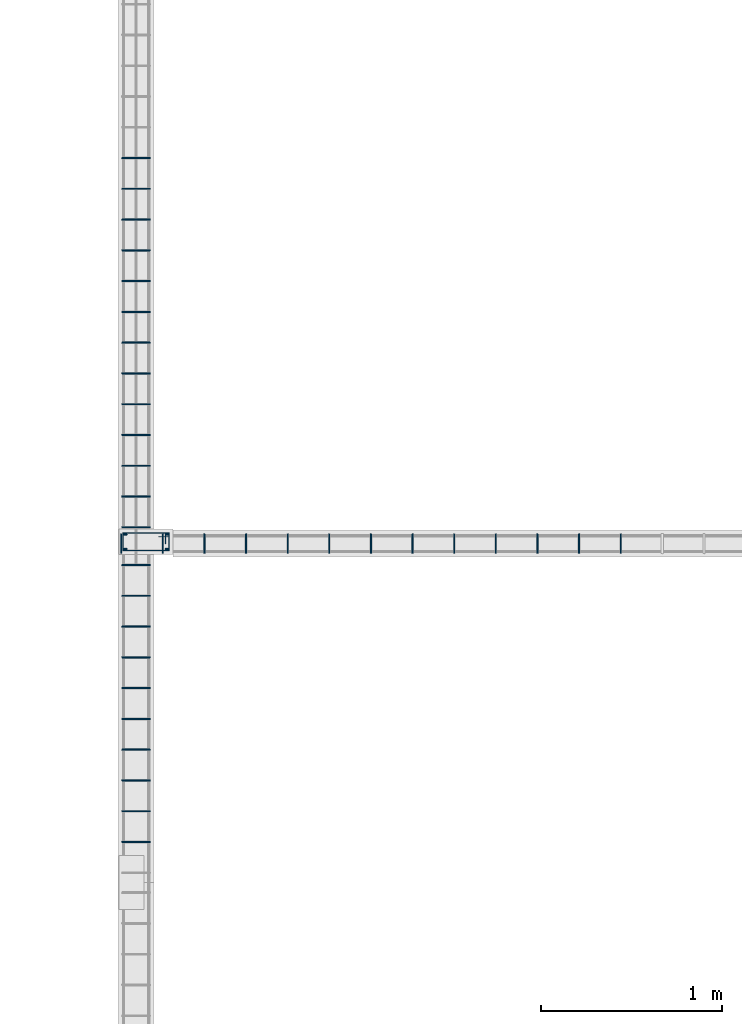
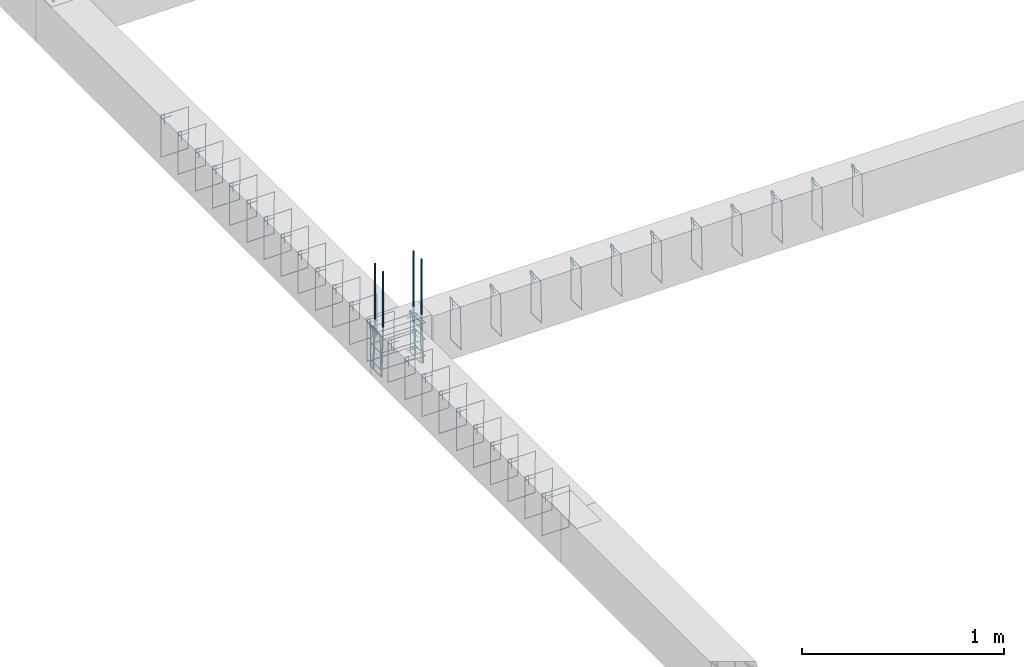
# One storey, part 82 of 150: 43 reinforcing bars.
"""IFC4 building model written with IfcOpenShell, lengths in centimetres."""

import ifcopenshell
import ifcopenshell.guid

model = None  # the IFC model being written
_history = None  # IfcOwnerHistory: only IFC2X3 demands one
_inside = {}  # id of a spatial element -> (the spatial element, [elements in it])
_under = {}  # id of a project, library or spatial element -> (it, [spatial elements below it])
_declared = {}  # id of a project -> (the project, [libraries it declares])
_typed = {}  # id of a type object -> (the type object, [elements of that type])
_made_of = {}  # id of a material, layer set ... -> (it, [elements and type objects made of it])


def new_model(schema):
    """Start an empty IFC model of exactly this schema.

    Asked for "IFC4X3", IfcOpenShell would pick the latest addendum, in which some entities
    have other attributes; the version numbers below select the first issue.
    IFC2X3 requires an IfcOwnerHistory on every rooted entity: one is made here for all.
    """
    global model, _history
    if schema == "IFC4X3":
        model = ifcopenshell.file(schema_version=(4, 3, 0, 0))
    else:
        model = ifcopenshell.file(schema=schema)
    _inside.clear()
    _under.clear()
    _declared.clear()
    _typed.clear()
    _made_of.clear()
    _history = None
    if model.schema == "IFC2X3":
        org = make("IfcOrganization", Name="unknown")
        user = make(
            "IfcPersonAndOrganization",
            ThePerson=make("IfcPerson", FamilyName="unknown"),
            TheOrganization=org,
        )
        app = make(
            "IfcApplication",
            ApplicationDeveloper=org,
            Version="unknown",
            ApplicationFullName="unknown",
            ApplicationIdentifier="unknown",
        )
        _history = make(
            "IfcOwnerHistory",
            OwningUser=user,
            OwningApplication=app,
            ChangeAction="ADDED",
            CreationDate=0,
        )
    return model


def make(cls, **values):
    """One entity of the class cls with the attributes given. An attribute that is None is left unset."""
    return model.create_entity(
        cls, **{name: value for name, value in values.items() if value is not None}
    )


def entity(cls, *values):
    """Any entity or typed value of the class cls, its attributes in the order of the schema. None: left unset."""
    e = model.create_entity(cls)
    for i, value in enumerate(values):
        if value is not None:
            e[i] = value
    return e


def rooted(cls, **values):
    """An entity with a GlobalId (a new one), such as an element, a storey or a relation."""
    return make(cls, GlobalId=ifcopenshell.guid.new(), OwnerHistory=_history, **values)


def si_unit(unit_type, name, prefix=None):
    """IfcSIUnit, for example si_unit("LENGTHUNIT", "METRE", prefix="MILLI")."""
    return make("IfcSIUnit", UnitType=unit_type, Prefix=prefix, Name=name)


def derived_unit(unit_type, elements):
    """IfcDerivedUnit: a product of units, each with its exponent."""
    return make(
        "IfcDerivedUnit",
        Elements=[
            make("IfcDerivedUnitElement", Unit=unit, Exponent=power)
            for unit, power in elements
        ],
        UnitType=unit_type,
    )


def assignment(units):
    """IfcUnitAssignment: the units of a project."""
    return None if units is None else make("IfcUnitAssignment", Units=units)


def point(xyz):
    """IfcCartesianPoint."""
    return None if xyz is None else make("IfcCartesianPoint", Coordinates=xyz)


def direction(xyz):
    """IfcDirection."""
    return None if xyz is None else make("IfcDirection", DirectionRatios=xyz)


def frame(location, z_axis=None, x_axis=None):
    """IfcAxis2Placement3D, a coordinate frame: its origin and axes. An axis left out is left unset."""
    return make(
        "IfcAxis2Placement3D",
        Location=point(location),
        Axis=direction(z_axis),
        RefDirection=direction(x_axis),
    )


def origin_with_axes():
    """The frame at (0, 0, 0) with the z axis (0, 0, 1) and the x axis (1, 0, 0) written out."""
    return frame((0.0, 0.0, 0.0), z_axis=(0.0, 0.0, 1.0), x_axis=(1.0, 0.0, 0.0))


def place(relative_to, where):
    """IfcLocalPlacement: puts the frame where relative to a parent placement (None: the world)."""
    return make(
        "IfcLocalPlacement", PlacementRelTo=relative_to, RelativePlacement=where
    )


def context(
    kind, dimensions, precision=None, world=None, true_north=None, identifier=None
):
    """IfcGeometricRepresentationContext, for example the 3D "Model" context."""
    return make(
        "IfcGeometricRepresentationContext",
        ContextIdentifier=identifier,
        ContextType=kind,
        CoordinateSpaceDimension=dimensions,
        Precision=precision,
        WorldCoordinateSystem=world,
        TrueNorth=true_north,
    )


def project(units=None, contexts=None):
    """IfcProject with its units and contexts."""
    return rooted(
        "IfcProject",
        Name="project",
        RepresentationContexts=contexts,
        UnitsInContext=assignment(units),
    )


def spatial(cls, under=None, at=None, **own):
    """A site, building, storey or space (cls), placed at a placement, below another one or the project."""
    s = rooted(cls, ObjectPlacement=at, **own)
    if under is not None:
        _under.setdefault(under.id(), (under, []))[1].append(s)
    return s


def shape(context_of_items, identifier, shape_type, items):
    """IfcShapeRepresentation: the items that make up one representation, for example the "Body"."""
    return make(
        "IfcShapeRepresentation",
        ContextOfItems=context_of_items,
        RepresentationIdentifier=identifier,
        RepresentationType=shape_type,
        Items=items,
    )


def source(mapping_origin, context_of_items, identifier, shape_type, items):
    """IfcRepresentationMap: a shape defined once, which mapped items show again and again."""
    return make(
        "IfcRepresentationMap",
        MappingOrigin=mapping_origin,
        MappedRepresentation=shape(context_of_items, identifier, shape_type, items),
    )


def transform(
    local_origin,
    x_axis=None,
    y_axis=None,
    z_axis=None,
    scale=None,
    scale2=None,
    scale3=None,
    uniform=True,
):
    """IfcCartesianTransformationOperator3D, or its non-uniform kind. x_axis, y_axis, z_axis: its Axis1, 2, 3."""
    if uniform:
        return make(
            "IfcCartesianTransformationOperator3D",
            Axis1=direction(x_axis),
            Axis2=direction(y_axis),
            LocalOrigin=point(local_origin),
            Scale=scale,
            Axis3=direction(z_axis),
        )
    return make(
        "IfcCartesianTransformationOperator3DnonUniform",
        Axis1=direction(x_axis),
        Axis2=direction(y_axis),
        LocalOrigin=point(local_origin),
        Scale=scale,
        Axis3=direction(z_axis),
        Scale2=scale2,
        Scale3=scale3,
    )


def mapped(mapping_source, mapping_target):
    """IfcMappedItem: shows the shape of a source again, moved by a transform."""
    return make(
        "IfcMappedItem", MappingSource=mapping_source, MappingTarget=mapping_target
    )


def made_of(thing, what):
    """Note that an element or type object is made of a material, layer set ...; save() writes the relation."""
    if what is not None:
        _made_of.setdefault(what.id(), (what, []))[1].append(thing)
    return thing


def element(
    cls,
    number,
    at=None,
    inside=None,
    cuts=None,
    type_object=None,
    material=None,
    context=None,
    identifier="Body",
    shape_type=None,
    held_by="IfcProductDefinitionShape",
    body=None,
    shapes=None,
    **own,
):
    """One element of the class cls, such as IfcWall. Its Tag is "e" and its number.

    at: its placement. inside: the storey or other place that contains it. cuts: it is an
    opening in that element (IfcRelVoidsElement). A single representation is given by context,
    identifier, shape_type and body (its items); several are given by shapes. held_by: the class
    of the entity that holds the representations. save() writes the other relations.
    """
    e = rooted(cls, Tag="e%d" % number, ObjectPlacement=at, **own)
    if body is not None:
        shapes = [shape(context, identifier, shape_type, body)]
    if shapes is not None:
        e.Representation = make(held_by, Representations=shapes)
    if inside is not None:
        _inside.setdefault(inside.id(), (inside, []))[1].append(e)
    if cuts is not None:
        rooted(
            "IfcRelVoidsElement", RelatingBuildingElement=cuts, RelatedOpeningElement=e
        )
    if type_object is not None:
        _typed.setdefault(type_object.id(), (type_object, []))[1].append(e)
    return made_of(e, material)


def aggregate(whole, parts):
    """IfcRelAggregates: a whole, such as a stair, and the parts it consists of."""
    return rooted("IfcRelAggregates", RelatingObject=whole, RelatedObjects=parts)


def save(model, path):
    """Write the relations noted so far, then the file.

    IfcRelAggregates (storeys below a building ...), IfcRelContainedInSpatialStructure (elements
    in a storey), IfcRelDefinesByType, IfcRelAssociatesMaterial and IfcRelDeclares: one each for
    every whole, place, type object, material and project.
    """
    for whole, parts in _under.values():
        aggregate(whole, parts)
    for where, things in _inside.values():
        rooted(
            "IfcRelContainedInSpatialStructure",
            RelatedElements=things,
            RelatingStructure=where,
        )
    for kind, things in _typed.values():
        rooted("IfcRelDefinesByType", RelatedObjects=things, RelatingType=kind)
    for what, things in _made_of.values():
        rooted("IfcRelAssociatesMaterial", RelatedObjects=things, RelatingMaterial=what)
    for by, libraries in _declared.values():
        rooted("IfcRelDeclares", RelatingContext=by, RelatedDefinitions=libraries)
    model.write(path)


model = new_model("IFC4")

# Units and contexts
model_context = context("Model", 3, precision=1e-05, world=origin_with_axes(), identifier="Body")
ifc_project = project(units=[si_unit("LENGTHUNIT", "METRE", prefix="CENTI"), si_unit("VOLUMEUNIT", "CUBIC_METRE"), si_unit("AREAUNIT", "SQUARE_METRE"), si_unit("POWERUNIT", "WATT"), si_unit("LUMINOUSFLUXUNIT", "LUMEN"), si_unit("ELECTRICCURRENTUNIT", "AMPERE"), si_unit("PRESSUREUNIT", "PASCAL", prefix="KILO"), si_unit("MASSUNIT", "GRAM", prefix="KILO"), si_unit("PLANEANGLEUNIT", "RADIAN"), derived_unit("VOLUMETRICFLOWRATEUNIT", [(si_unit("LENGTHUNIT", "METRE"), 3), (si_unit("TIMEUNIT", "SECOND"), -1)])], contexts=[model_context])

# Site, building, storey
site_placement = place(None, frame((-4000.0, 0.0, 0.0), z_axis=(0.0, 0.0, 1.0), x_axis=(1.0, 0.0, 0.0)))
site = spatial("IfcSite", under=ifc_project, at=site_placement, Name="PADRÃO")
building_placement = place(site_placement, frame((0.0, 0.0, -14.0)))
building = spatial("IfcBuilding", under=site, at=building_placement, Name="CRECHE PRÉ-ESCOLA TIPO 2")
placement = place(building_placement, origin_with_axes())
storey_placement = place(placement, frame((0.0, 0.0, 30.0), z_axis=(0.0, 0.0, 1.0), x_axis=(1.0, 0.0, 0.0)))
storey = spatial("IfcBuildingStorey", under=building, at=storey_placement, Name="VIGA BALDRAME", CompositionType="ELEMENT", Elevation=16.0)

# Reinforcing bars
shared_shape_1 = source(origin_with_axes(), model_context, "Body", "AdvancedSweptSolid", [
    entity("IfcSweptDiskSolid", entity("IfcCompositeCurve", [entity("IfcCompositeCurveSegment", "CONTINUOUS", True, entity("IfcPolyline", [entity("IfcCartesianPoint", [4.25, 21.75, 0.0]), entity("IfcCartesianPoint", [4.25, 27.75, 0.0])])), entity("IfcCompositeCurveSegment", "CONTINUOUS", True, entity("IfcPolyline", [entity("IfcCartesianPoint", [4.25, 27.75, 0.0]), entity("IfcCartesianPoint", [2.25, 27.75, 0.0])])), entity("IfcCompositeCurveSegment", "CONTINUOUS", True, entity("IfcPolyline", [entity("IfcCartesianPoint", [2.25, 27.75, 0.0]), entity("IfcCartesianPoint", [2.25, 2.25, 0.0])])), entity("IfcCompositeCurveSegment", "CONTINUOUS", True, entity("IfcPolyline", [entity("IfcCartesianPoint", [2.25, 2.25, 0.0]), entity("IfcCartesianPoint", [11.75, 2.25, 0.0])])), entity("IfcCompositeCurveSegment", "CONTINUOUS", True, entity("IfcPolyline", [entity("IfcCartesianPoint", [11.75, 2.25, 0.0]), entity("IfcCartesianPoint", [11.75, 27.75, -0.5])])), entity("IfcCompositeCurveSegment", "CONTINUOUS", True, entity("IfcPolyline", [entity("IfcCartesianPoint", [11.75, 27.75, -0.5]), entity("IfcCartesianPoint", [2.25, 27.75, -0.5])])), entity("IfcCompositeCurveSegment", "CONTINUOUS", True, entity("IfcPolyline", [entity("IfcCartesianPoint", [2.25, 27.75, -0.5]), entity("IfcCartesianPoint", [2.25, 25.75, -0.5])])), entity("IfcCompositeCurveSegment", "CONTINUOUS", True, entity("IfcPolyline", [entity("IfcCartesianPoint", [2.25, 25.75, -0.5]), entity("IfcCartesianPoint", [8.25, 25.75, -0.5])]))], False), 0.25),
])
for number, where, z_axis, x_axis, name in (
    (1, (2516.5, 2585.52, -15.0), (0.0, 0.0, 1.0), (0.0, -1.0, 0.0), "P72 - Estribo"),
    (2, (2516.5, 2585.52, -25.0), (0.0, 0.0, 1.0), (0.0, -1.0, 0.0), "P72 - Estribo"),
    (3, (2516.5, 2585.52, -5.0), (0.0, 0.0, 1.0), (0.0, -1.0, 0.0), "P72 - Estribo"),
):
    element("IfcReinforcingBar", number, at=place(storey_placement, frame(where, z_axis=z_axis, x_axis=x_axis)), inside=storey, Name=name, BarLength=0.0, CrossSectionArea=1.9634954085e-05, NominalDiameter=0.5, PredefinedType="MAIN", context=model_context, shape_type="MappedRepresentation", body=[
        mapped(shared_shape_1, transform((0.0, 0.0, 0.0), scale=1.0)),
    ])
shared_shape_2 = source(origin_with_axes(), model_context, "Body", "AdvancedSweptSolid", [
    entity("IfcSweptDiskSolid", entity("IfcCompositeCurve", [entity("IfcCompositeCurveSegment", "CONTINUOUS", True, entity("IfcPolyline", [entity("IfcCartesianPoint", [2.0, -6.0, 0.0]), entity("IfcCartesianPoint", [2.0, 0.0, 0.0])])), entity("IfcCompositeCurveSegment", "CONTINUOUS", True, entity("IfcPolyline", [entity("IfcCartesianPoint", [2.0, 0.0, 0.0]), entity("IfcCartesianPoint", [0.0, 0.0, 0.0])])), entity("IfcCompositeCurveSegment", "CONTINUOUS", True, entity("IfcPolyline", [entity("IfcCartesianPoint", [0.0, 0.0, 0.0]), entity("IfcCartesianPoint", [0.0, -25.5, 0.0])])), entity("IfcCompositeCurveSegment", "CONTINUOUS", True, entity("IfcPolyline", [entity("IfcCartesianPoint", [0.0, -25.5, 0.0]), entity("IfcCartesianPoint", [10.5, -25.5, 0.0])])), entity("IfcCompositeCurveSegment", "CONTINUOUS", True, entity("IfcPolyline", [entity("IfcCartesianPoint", [10.5, -25.5, 0.0]), entity("IfcCartesianPoint", [10.5, 0.0, 0.5])])), entity("IfcCompositeCurveSegment", "CONTINUOUS", True, entity("IfcPolyline", [entity("IfcCartesianPoint", [10.5, 0.0, 0.5]), entity("IfcCartesianPoint", [0.0, 0.0, 0.5])])), entity("IfcCompositeCurveSegment", "CONTINUOUS", True, entity("IfcPolyline", [entity("IfcCartesianPoint", [0.0, 0.0, 0.5]), entity("IfcCartesianPoint", [0.0, -2.0, 0.5])])), entity("IfcCompositeCurveSegment", "CONTINUOUS", True, entity("IfcPolyline", [entity("IfcCartesianPoint", [0.0, -2.0, 0.5]), entity("IfcCartesianPoint", [6.0, -2.0, 0.5])]))], False), 0.25),
])
for number, where, z_axis, x_axis, name in (
    (4, (2564.0, 2582.77, -2.25), (-1.0, 0.0, 0.0), (0.0, -1.0, 0.0), "V122 - Estribo"),
    (5, (2587.0, 2582.77, -2.25), (-1.0, 0.0, 0.0), (0.0, -1.0, 0.0), "V122 - Estribo"),
    (6, (2610.0, 2582.77, -2.25), (-1.0, 0.0, 0.0), (0.0, -1.0, 0.0), "V122 - Estribo"),
    (7, (2633.0, 2582.77, -2.25), (-1.0, 0.0, 0.0), (0.0, -1.0, 0.0), "V122 - Estribo"),
    (8, (2656.0, 2582.77, -2.25), (-1.0, 0.0, 0.0), (0.0, -1.0, 0.0), "V122 - Estribo"),
    (9, (2679.0, 2582.77, -2.25), (-1.0, 0.0, 0.0), (0.0, -1.0, 0.0), "V122 - Estribo"),
    (10, (2702.0, 2582.77, -2.25), (-1.0, 0.0, 0.0), (0.0, -1.0, 0.0), "V122 - Estribo"),
    (11, (2725.0, 2582.77, -2.25), (-1.0, 0.0, 0.0), (0.0, -1.0, 0.0), "V122 - Estribo"),
    (12, (2748.0, 2582.77, -2.25), (-1.0, 0.0, 0.0), (0.0, -1.0, 0.0), "V122 - Estribo"),
    (13, (2771.0, 2582.77, -2.25), (-1.0, 0.0, 0.0), (0.0, -1.0, 0.0), "V122 - Estribo"),
    (14, (2794.0, 2582.77, -2.25), (-1.0, 0.0, 0.0), (0.0, -1.0, 0.0), "V122 - Estribo"),
    (15, (2518.0, 2582.77, -2.25), (-1.0, 0.0, 0.0), (0.0, -1.0, 0.0), "V122 - Estribo"),
    (16, (2541.0, 2582.77, -2.25), (-1.0, 0.0, 0.0), (0.0, -1.0, 0.0), "V122 - Estribo"),
):
    element("IfcReinforcingBar", number, at=place(storey_placement, frame(where, z_axis=z_axis, x_axis=x_axis)), inside=storey, Name=name, BarLength=0.0, CrossSectionArea=1.9634954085e-05, NominalDiameter=0.5, PredefinedType="MAIN", context=model_context, shape_type="MappedRepresentation", body=[
        mapped(shared_shape_2, transform((0.0, 0.0, 0.0), scale=1.0)),
    ])
shared_shape_3 = source(origin_with_axes(), model_context, "Body", "AdvancedSweptSolid", [
    entity("IfcSweptDiskSolid", entity("IfcCompositeCurve", [entity("IfcCompositeCurveSegment", "CONTINUOUS", True, entity("IfcPolyline", [entity("IfcCartesianPoint", [2.0, -6.0, 0.0]), entity("IfcCartesianPoint", [2.0, 0.0, 0.0])])), entity("IfcCompositeCurveSegment", "CONTINUOUS", True, entity("IfcPolyline", [entity("IfcCartesianPoint", [2.0, 0.0, 0.0]), entity("IfcCartesianPoint", [0.0, 0.0, 0.0])])), entity("IfcCompositeCurveSegment", "CONTINUOUS", True, entity("IfcPolyline", [entity("IfcCartesianPoint", [0.0, 0.0, 0.0]), entity("IfcCartesianPoint", [0.0, -25.5, 0.0])])), entity("IfcCompositeCurveSegment", "CONTINUOUS", True, entity("IfcPolyline", [entity("IfcCartesianPoint", [0.0, -25.5, 0.0]), entity("IfcCartesianPoint", [15.5, -25.5, 0.0])])), entity("IfcCompositeCurveSegment", "CONTINUOUS", True, entity("IfcPolyline", [entity("IfcCartesianPoint", [15.5, -25.5, 0.0]), entity("IfcCartesianPoint", [15.5, 0.0, 0.5])])), entity("IfcCompositeCurveSegment", "CONTINUOUS", True, entity("IfcPolyline", [entity("IfcCartesianPoint", [15.5, 0.0, 0.5]), entity("IfcCartesianPoint", [0.0, 0.0, 0.5])])), entity("IfcCompositeCurveSegment", "CONTINUOUS", True, entity("IfcPolyline", [entity("IfcCartesianPoint", [0.0, 0.0, 0.5]), entity("IfcCartesianPoint", [0.0, -2.0, 0.5])])), entity("IfcCompositeCurveSegment", "CONTINUOUS", True, entity("IfcPolyline", [entity("IfcCartesianPoint", [0.0, -2.0, 0.5]), entity("IfcCartesianPoint", [6.0, -2.0, 0.5])]))], False), 0.25),
])
for number, where, z_axis, x_axis, name in (
    (17, (2518.25, 2429.895, -2.25), (0.0, -1.0, 0.0), (1.0, 0.0, 0.0), "V198 - Estribo"),
    (18, (2518.25, 2446.895, -2.25), (0.0, -1.0, 0.0), (1.0, 0.0, 0.0), "V198 - Estribo"),
    (19, (2518.25, 2463.895, -2.25), (0.0, -1.0, 0.0), (1.0, 0.0, 0.0), "V198 - Estribo"),
    (20, (2518.25, 2480.895, -2.25), (0.0, -1.0, 0.0), (1.0, 0.0, 0.0), "V198 - Estribo"),
    (21, (2518.25, 2497.895, -2.25), (0.0, -1.0, 0.0), (1.0, 0.0, 0.0), "V198 - Estribo"),
    (22, (2518.25, 2514.895, -2.25), (0.0, -1.0, 0.0), (1.0, 0.0, 0.0), "V198 - Estribo"),
    (23, (2518.25, 2531.895, -2.25), (0.0, -1.0, 0.0), (1.0, 0.0, 0.0), "V198 - Estribo"),
    (24, (2518.25, 2412.895, -2.25), (0.0, -1.0, 0.0), (1.0, 0.0, 0.0), "V198 - Estribo"),
    (25, (2518.25, 2548.895, -2.25), (0.0, -1.0, 0.0), (1.0, 0.0, 0.0), "V198 - Estribo"),
    (26, (2518.25, 2565.895, -2.25), (0.0, -1.0, 0.0), (1.0, 0.0, 0.0), "V198 - Estribo"),
):
    element("IfcReinforcingBar", number, at=place(storey_placement, frame(where, z_axis=z_axis, x_axis=x_axis)), inside=storey, Name=name, BarLength=0.0, CrossSectionArea=1.9634954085e-05, NominalDiameter=0.5, PredefinedType="MAIN", context=model_context, shape_type="MappedRepresentation", body=[
        mapped(shared_shape_3, transform((0.0, 0.0, 0.0), scale=1.0)),
    ])
shared_shape_4 = source(origin_with_axes(), model_context, "Body", "AdvancedSweptSolid", [
    entity("IfcSweptDiskSolid", entity("IfcCompositeCurve", [entity("IfcCompositeCurveSegment", "CONTINUOUS", True, entity("IfcPolyline", [entity("IfcCartesianPoint", [2.0, -6.0, 0.0]), entity("IfcCartesianPoint", [2.0, 0.0, 0.0])])), entity("IfcCompositeCurveSegment", "CONTINUOUS", True, entity("IfcPolyline", [entity("IfcCartesianPoint", [2.0, 0.0, 0.0]), entity("IfcCartesianPoint", [0.0, 0.0, 0.0])])), entity("IfcCompositeCurveSegment", "CONTINUOUS", True, entity("IfcPolyline", [entity("IfcCartesianPoint", [0.0, 0.0, 0.0]), entity("IfcCartesianPoint", [0.0, -25.5, 0.0])])), entity("IfcCompositeCurveSegment", "CONTINUOUS", True, entity("IfcPolyline", [entity("IfcCartesianPoint", [0.0, -25.5, 0.0]), entity("IfcCartesianPoint", [15.5, -25.5, 0.0])])), entity("IfcCompositeCurveSegment", "CONTINUOUS", True, entity("IfcPolyline", [entity("IfcCartesianPoint", [15.5, -25.5, 0.0]), entity("IfcCartesianPoint", [15.5, 0.0, 0.5])])), entity("IfcCompositeCurveSegment", "CONTINUOUS", True, entity("IfcPolyline", [entity("IfcCartesianPoint", [15.5, 0.0, 0.5]), entity("IfcCartesianPoint", [0.0, 0.0, 0.5])])), entity("IfcCompositeCurveSegment", "CONTINUOUS", True, entity("IfcPolyline", [entity("IfcCartesianPoint", [0.0, 0.0, 0.5]), entity("IfcCartesianPoint", [0.0, -2.0, 0.5])])), entity("IfcCompositeCurveSegment", "CONTINUOUS", True, entity("IfcPolyline", [entity("IfcCartesianPoint", [0.0, -2.0, 0.5]), entity("IfcCartesianPoint", [6.0, -2.0, 0.5])]))], False), 0.25),
])
for number, where, z_axis, x_axis, name in (
    (27, (2518.25, 2756.77, -2.25), (0.0, -1.0, 0.0), (1.0, 0.0, 0.0), "V198 - Estribo"),
    (28, (2518.25, 2790.77, -2.25), (0.0, -1.0, 0.0), (1.0, 0.0, 0.0), "V198 - Estribo"),
    (29, (2518.25, 2773.77, -2.25), (0.0, -1.0, 0.0), (1.0, 0.0, 0.0), "V198 - Estribo"),
    (30, (2518.25, 2586.77, -2.25), (0.0, -1.0, 0.0), (1.0, 0.0, 0.0), "V198 - Estribo"),
    (31, (2518.25, 2603.77, -2.25), (0.0, -1.0, 0.0), (1.0, 0.0, 0.0), "V198 - Estribo"),
    (32, (2518.25, 2620.77, -2.25), (0.0, -1.0, 0.0), (1.0, 0.0, 0.0), "V198 - Estribo"),
    (33, (2518.25, 2637.77, -2.25), (0.0, -1.0, 0.0), (1.0, 0.0, 0.0), "V198 - Estribo"),
    (34, (2518.25, 2654.77, -2.25), (0.0, -1.0, 0.0), (1.0, 0.0, 0.0), "V198 - Estribo"),
    (35, (2518.25, 2671.77, -2.25), (0.0, -1.0, 0.0), (1.0, 0.0, 0.0), "V198 - Estribo"),
    (36, (2518.25, 2688.77, -2.25), (0.0, -1.0, 0.0), (1.0, 0.0, 0.0), "V198 - Estribo"),
    (37, (2518.25, 2705.77, -2.25), (0.0, -1.0, 0.0), (1.0, 0.0, 0.0), "V198 - Estribo"),
    (38, (2518.25, 2722.77, -2.25), (0.0, -1.0, 0.0), (1.0, 0.0, 0.0), "V198 - Estribo"),
    (39, (2518.25, 2739.77, -2.25), (0.0, -1.0, 0.0), (1.0, 0.0, 0.0), "V198 - Estribo"),
):
    element("IfcReinforcingBar", number, at=place(storey_placement, frame(where, z_axis=z_axis, x_axis=x_axis)), inside=storey, Name=name, BarLength=0.0, CrossSectionArea=1.9634954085e-05, NominalDiameter=0.5, PredefinedType="MAIN", context=model_context, shape_type="MappedRepresentation", body=[
        mapped(shared_shape_4, transform((0.0, 0.0, 0.0), scale=1.0)),
    ])
for number, where, z_axis, x_axis, name in (
    (40, (2520.00013877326, 2582.52, 33.3573001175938), (0.0, 0.0, 1.0), (1.0, 0.0, 0.0), "P72 - Longitudinal"),
    (41, (2520.00013877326, 2574.52, 33.3573001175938), (0.0, 0.0, 1.0), (1.0, 0.0, 0.0), "P72 - Longitudinal"),
):
    element("IfcReinforcingBar", number, at=place(storey_placement, frame(where, z_axis=z_axis, x_axis=x_axis)), inside=storey, Name=name, BarLength=0.0, CrossSectionArea=7.853981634e-05, NominalDiameter=1.0, PredefinedType="MAIN", context=model_context, shape_type="AdvancedSweptSolid", body=[
        entity("IfcSweptDiskSolid", entity("IfcCompositeCurve", [entity("IfcCompositeCurveSegment", "CONTINUOUS", True, entity("IfcPolyline", [entity("IfcCartesianPoint", [-0.500138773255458, 0.0, -63.3573001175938]), entity("IfcCartesianPoint", [0.499861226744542, 0.0, -33.3573001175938])])), entity("IfcCompositeCurveSegment", "CONTINUOUS", True, entity("IfcPolyline", [entity("IfcCartesianPoint", [0.499861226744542, 0.0, -33.3573001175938]), entity("IfcCartesianPoint", [0.499861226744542, 0.0, 0.0])]))], False), 0.5),
    ])
for number, where, z_axis, x_axis, name in (
    (42, (2542.99986122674, 2574.52, 33.3573001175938), (0.0, 0.0, 1.0), (1.0, 0.0, 0.0), "P72 - Longitudinal"),
    (43, (2542.99986122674, 2582.52, 33.3573001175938), (0.0, 0.0, 1.0), (1.0, 0.0, 0.0), "P72 - Longitudinal"),
):
    element("IfcReinforcingBar", number, at=place(storey_placement, frame(where, z_axis=z_axis, x_axis=x_axis)), inside=storey, Name=name, BarLength=0.0, CrossSectionArea=7.853981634e-05, NominalDiameter=1.0, PredefinedType="MAIN", context=model_context, shape_type="AdvancedSweptSolid", body=[
        entity("IfcSweptDiskSolid", entity("IfcCompositeCurve", [entity("IfcCompositeCurveSegment", "CONTINUOUS", True, entity("IfcPolyline", [entity("IfcCartesianPoint", [0.500138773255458, 0.0, -63.3573001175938]), entity("IfcCartesianPoint", [-0.499861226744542, 0.0, -33.3573001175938])])), entity("IfcCompositeCurveSegment", "CONTINUOUS", True, entity("IfcPolyline", [entity("IfcCartesianPoint", [-0.499861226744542, 0.0, -33.3573001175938]), entity("IfcCartesianPoint", [-0.499861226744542, 0.0, 0.0])]))], False), 0.5),
    ])

save(model, "model.ifc")
